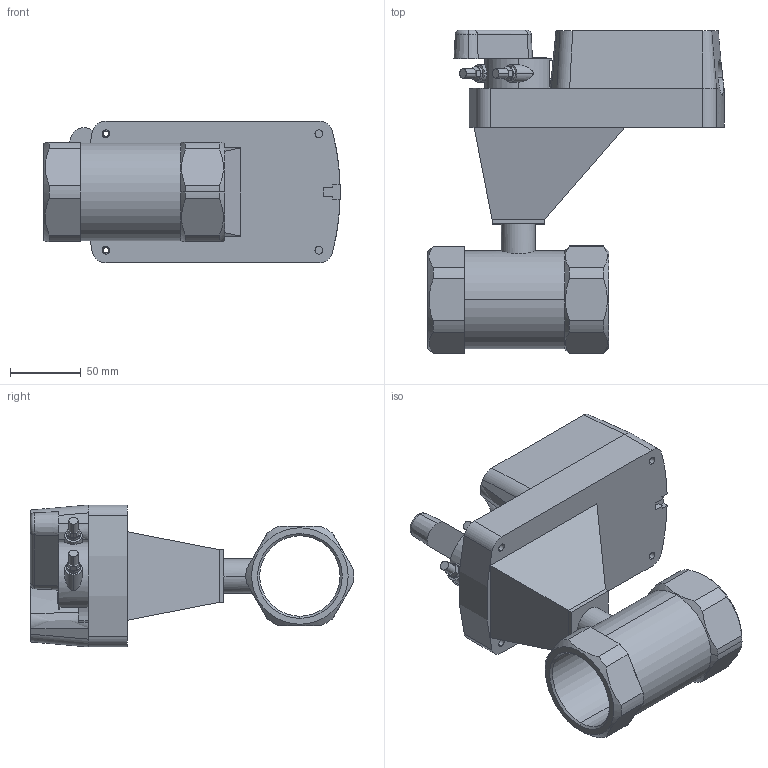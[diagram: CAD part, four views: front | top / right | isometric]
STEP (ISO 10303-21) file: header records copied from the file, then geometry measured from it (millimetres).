
FILE_DESCRIPTION (( 'STEP AP214' ), '1' );
FILE_NAME ('Ball valve 2W DN50.STEP', '2025-01-24T13:02:51', ( '' ), ( '' ), 'SwSTEP 2.0', 'SolidWorks 2023', '' );
FILE_SCHEMA (( 'AUTOMOTIVE_DESIGN' ));
Length unit declared in the file: millimetre
Products named in the file (1): Ball valve 2W DN50
Bounding box: 208.7 x 228 x 100 mm (x, y, z)
Volume: 1356949.5 mm3; surface area: 154488.9 mm2
Topology: 4 solids, 4 shells, 213 faces, 553 edges, 357 vertices
Faces by surface type: plane 106, cylinder 83, cone 17, bspline 4, torus 3
Entity records: 7561 total; most frequent: CARTESIAN_POINT 2209, DIRECTION 1116, ORIENTED_EDGE 1106, EDGE_CURVE 553, AXIS2_PLACEMENT_3D 415, VERTEX_POINT 357, VECTOR 286, LINE 286
